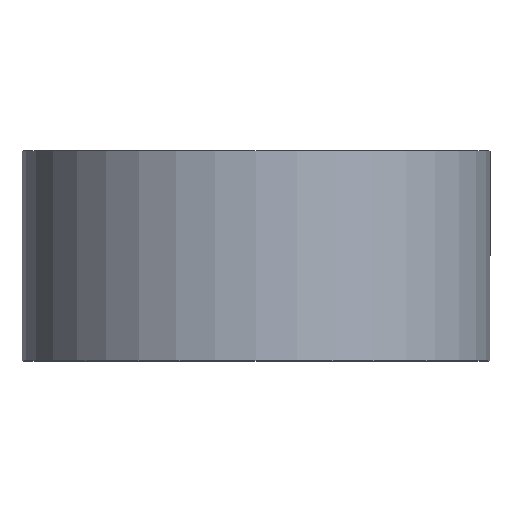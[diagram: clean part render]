
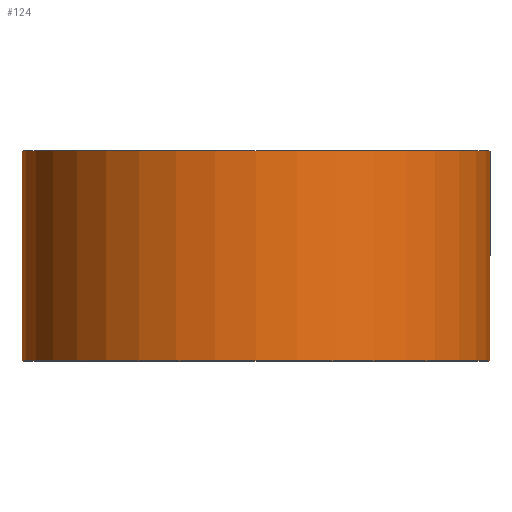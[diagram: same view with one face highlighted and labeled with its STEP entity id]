
A CAD part, top view. The second image highlights one B-rep face of the part: STEP entity #124.
In plain terms, the highlighted cylindrical face has radius 39 mm (diameter 78 mm), a partial arc.
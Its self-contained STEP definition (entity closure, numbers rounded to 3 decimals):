
#8 = VERTEX_POINT ( 'NONE', #195 ) ;
#11 = LINE ( 'NONE', #33, #231 ) ;
#33 = CARTESIAN_POINT ( 'NONE',  ( 39., 0., 0. ) ) ;
#38 = LINE ( 'NONE', #204, #267 ) ;
#49 = AXIS2_PLACEMENT_3D ( 'NONE', #112, #113, #67 ) ;
#59 = CARTESIAN_POINT ( 'NONE',  ( -39., 35., 0. ) ) ;
#61 = EDGE_LOOP ( 'NONE', ( #237, #160, #258, #219 ) ) ;
#64 = DIRECTION ( 'NONE',  ( 0., 1., 0. ) ) ;
#67 = DIRECTION ( 'NONE',  ( -1., 0., 0. ) ) ;
#71 = AXIS2_PLACEMENT_3D ( 'NONE', #178, #64, #107 ) ;
#82 = CARTESIAN_POINT ( 'NONE',  ( 0., 35., 0. ) ) ;
#102 = EDGE_CURVE ( 'NONE', #175, #213, #233, .T. ) ;
#106 = DIRECTION ( 'NONE',  ( -1., 0., 0. ) ) ;
#107 = DIRECTION ( 'NONE',  ( -1., 0., 0. ) ) ;
#108 = CYLINDRICAL_SURFACE ( 'NONE', #71, 39. ) ;
#112 = CARTESIAN_POINT ( 'NONE',  ( 0., 0., 0. ) ) ;
#113 = DIRECTION ( 'NONE',  ( 0., 1., 0. ) ) ;
#124 = ADVANCED_FACE ( 'NONE', ( #140 ), #108, .T. ) ;
#137 = EDGE_CURVE ( 'NONE', #209, #8, #220, .T. ) ;
#140 = FACE_OUTER_BOUND ( 'NONE', #61, .T. ) ;
#160 = ORIENTED_EDGE ( 'NONE', *, *, #301, .T. ) ;
#162 = EDGE_CURVE ( 'NONE', #175, #209, #38, .T. ) ;
#172 = CARTESIAN_POINT ( 'NONE',  ( -39., 0., 0. ) ) ;
#175 = VERTEX_POINT ( 'NONE', #172 ) ;
#177 = CARTESIAN_POINT ( 'NONE',  ( 39., 0., 0. ) ) ;
#178 = CARTESIAN_POINT ( 'NONE',  ( 0., 0., 0. ) ) ;
#195 = CARTESIAN_POINT ( 'NONE',  ( 39., 35., 0. ) ) ;
#199 = AXIS2_PLACEMENT_3D ( 'NONE', #82, #251, #106 ) ;
#204 = CARTESIAN_POINT ( 'NONE',  ( -39., 0., 0. ) ) ;
#209 = VERTEX_POINT ( 'NONE', #59 ) ;
#213 = VERTEX_POINT ( 'NONE', #177 ) ;
#219 = ORIENTED_EDGE ( 'NONE', *, *, #162, .F. ) ;
#220 = CIRCLE ( 'NONE', #199, 39. ) ;
#228 = DIRECTION ( 'NONE',  ( 0., 1., 0. ) ) ;
#231 = VECTOR ( 'NONE', #245, 1000. ) ;
#233 = CIRCLE ( 'NONE', #49, 39. ) ;
#237 = ORIENTED_EDGE ( 'NONE', *, *, #102, .T. ) ;
#245 = DIRECTION ( 'NONE',  ( 0., 1., 0. ) ) ;
#251 = DIRECTION ( 'NONE',  ( 0., 1., 0. ) ) ;
#258 = ORIENTED_EDGE ( 'NONE', *, *, #137, .F. ) ;
#267 = VECTOR ( 'NONE', #228, 1000. ) ;
#301 = EDGE_CURVE ( 'NONE', #213, #8, #11, .T. ) ;
